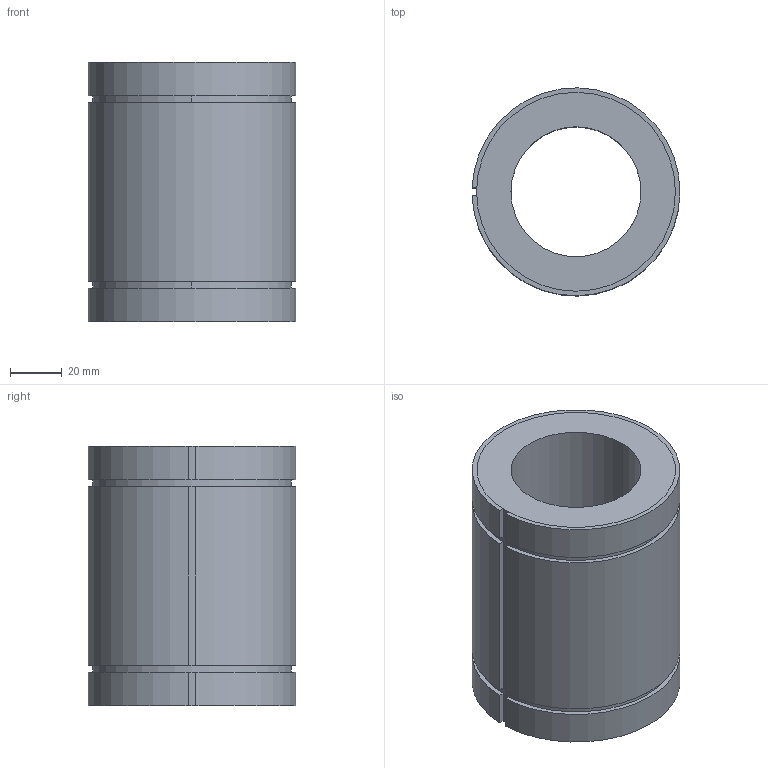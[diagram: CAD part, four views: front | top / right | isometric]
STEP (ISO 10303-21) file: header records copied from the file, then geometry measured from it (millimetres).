
FILE_DESCRIPTION((''),'2;1');
FILE_NAME('C:\Documents and Settings\ｿﾀﾀ蠑ｷ1\ｹﾙﾅﾁ ﾈｭｸ饅\ｺﾎﾇｰﾆﾄﾀﾏ\ﾁｦﾇｰ\LM__UUAJ\LM50UUAJ.stp','2005-06-14T16:27:40',('ｿﾀﾀ蠑ｷ1'),(''),'Autodesk Inventor 9','Autodesk Inventor 9','');
FILE_SCHEMA(('AUTOMOTIVE_DESIGN { 1 0 10303 214 1 1 1 1 }'));
Length unit declared in the file: millimetre
Products named in the file (1): LM__AJ
Bounding box: 79.97 x 79.99 x 100 mm (x, y, z)
Volume: 303573.2 mm3; surface area: 48925.5 mm2
Topology: 1 solids, 1 shells, 29 faces, 76 edges, 49 vertices
Faces by surface type: plane 17, cylinder 12
Entity records: 928 total; most frequent: DIRECTION 167, CARTESIAN_POINT 155, ORIENTED_EDGE 152, EDGE_CURVE 76, AXIS2_PLACEMENT_3D 61, VERTEX_POINT 49, VECTOR 45, LINE 45
